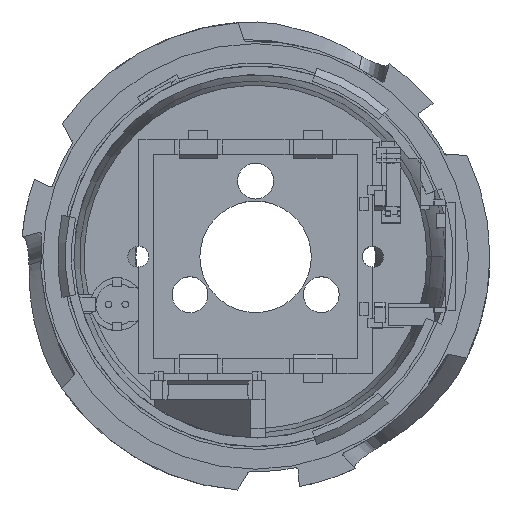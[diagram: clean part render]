
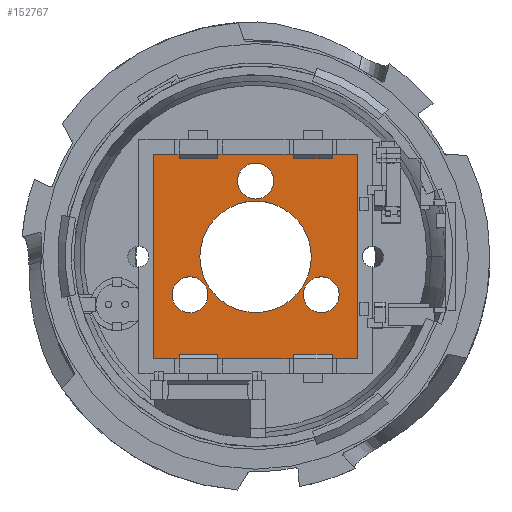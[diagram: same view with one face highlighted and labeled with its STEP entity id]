
A CAD part, top view. The second image highlights one B-rep face of the part: STEP entity #152767.
In plain terms, the highlighted planar face has unit normal (0, 0, 1).
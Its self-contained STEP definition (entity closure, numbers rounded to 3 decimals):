
#149959 = VERTEX_POINT('',#149960);
#149960 = CARTESIAN_POINT('',(21.4,-21.4,45.946));
#149966 = EDGE_CURVE('',#149959,#149967,#149969,.T.);
#149967 = VERTEX_POINT('',#149968);
#149968 = CARTESIAN_POINT('',(-21.4,-21.4,45.946));
#149969 = LINE('',#149970,#149971);
#149970 = CARTESIAN_POINT('',(0.,-21.4,45.946));
#149971 = VECTOR('',#149972,1.);
#149972 = DIRECTION('',(-1.,0.,0.));
#150015 = EDGE_CURVE('',#150016,#149967,#150018,.T.);
#150016 = VERTEX_POINT('',#150017);
#150017 = CARTESIAN_POINT('',(-21.4,21.4,45.946));
#150018 = LINE('',#150019,#150020);
#150019 = CARTESIAN_POINT('',(-21.4,0.,45.946));
#150020 = VECTOR('',#150021,1.);
#150021 = DIRECTION('',(0.,-1.,0.));
#150039 = EDGE_CURVE('',#150040,#150016,#150042,.T.);
#150040 = VERTEX_POINT('',#150041);
#150041 = CARTESIAN_POINT('',(21.4,21.4,45.946));
#150042 = LINE('',#150043,#150044);
#150043 = CARTESIAN_POINT('',(0.,21.4,45.946));
#150044 = VECTOR('',#150045,1.);
#150045 = DIRECTION('',(-1.,0.,0.));
#150943 = EDGE_CURVE('',#150040,#149959,#150944,.T.);
#150944 = LINE('',#150945,#150946);
#150945 = CARTESIAN_POINT('',(21.4,0.,45.946));
#150946 = VECTOR('',#150947,1.);
#150947 = DIRECTION('',(0.,-1.,0.));
#151747 = EDGE_CURVE('',#151748,#151748,#151750,.T.);
#151748 = VERTEX_POINT('',#151749);
#151749 = CARTESIAN_POINT('',(-9.971,-7.924,45.946));
#151750 = CIRCLE('',#151751,3.754);
#151751 = AXIS2_PLACEMENT_3D('',#151752,#151753,#151754);
#151752 = CARTESIAN_POINT('',(-13.725,-7.924,45.946));
#151753 = DIRECTION('',(0.,0.,1.));
#151754 = DIRECTION('',(1.,0.,-0.));
#151771 = EDGE_CURVE('',#151772,#151772,#151774,.T.);
#151772 = VERTEX_POINT('',#151773);
#151773 = CARTESIAN_POINT('',(17.479,-7.924,45.946));
#151774 = CIRCLE('',#151775,3.754);
#151775 = AXIS2_PLACEMENT_3D('',#151776,#151777,#151778);
#151776 = CARTESIAN_POINT('',(13.725,-7.924,45.946));
#151777 = DIRECTION('',(0.,0.,1.));
#151778 = DIRECTION('',(1.,0.,-0.));
#151795 = EDGE_CURVE('',#151796,#151796,#151798,.T.);
#151796 = VERTEX_POINT('',#151797);
#151797 = CARTESIAN_POINT('',(11.65,0.,45.946));
#151798 = CIRCLE('',#151799,11.65);
#151799 = AXIS2_PLACEMENT_3D('',#151800,#151801,#151802);
#151800 = CARTESIAN_POINT('',(0.,0.,45.946));
#151801 = DIRECTION('',(0.,0.,1.));
#151802 = DIRECTION('',(1.,0.,-0.));
#151819 = EDGE_CURVE('',#151820,#151820,#151822,.T.);
#151820 = VERTEX_POINT('',#151821);
#151821 = CARTESIAN_POINT('',(3.754,15.848,45.946));
#151822 = CIRCLE('',#151823,3.754);
#151823 = AXIS2_PLACEMENT_3D('',#151824,#151825,#151826);
#151824 = CARTESIAN_POINT('',(0.,15.848,45.946));
#151825 = DIRECTION('',(0.,0.,1.));
#151826 = DIRECTION('',(1.,0.,-0.));
#152767 = ADVANCED_FACE('',(#152768,#152771,#152774,#152777,#152780),
  #152786,.T.);
#152768 = FACE_BOUND('',#152769,.T.);
#152769 = EDGE_LOOP('',(#152770));
#152770 = ORIENTED_EDGE('',*,*,#151771,.F.);
#152771 = FACE_BOUND('',#152772,.T.);
#152772 = EDGE_LOOP('',(#152773));
#152773 = ORIENTED_EDGE('',*,*,#151747,.F.);
#152774 = FACE_BOUND('',#152775,.T.);
#152775 = EDGE_LOOP('',(#152776));
#152776 = ORIENTED_EDGE('',*,*,#151819,.F.);
#152777 = FACE_BOUND('',#152778,.T.);
#152778 = EDGE_LOOP('',(#152779));
#152779 = ORIENTED_EDGE('',*,*,#151795,.F.);
#152780 = FACE_BOUND('',#152781,.T.);
#152781 = EDGE_LOOP('',(#152782,#152783,#152784,#152785));
#152782 = ORIENTED_EDGE('',*,*,#150039,.T.);
#152783 = ORIENTED_EDGE('',*,*,#150015,.T.);
#152784 = ORIENTED_EDGE('',*,*,#149966,.F.);
#152785 = ORIENTED_EDGE('',*,*,#150943,.F.);
#152786 = PLANE('',#152787);
#152787 = AXIS2_PLACEMENT_3D('',#152788,#152789,#152790);
#152788 = CARTESIAN_POINT('',(0.,0.,45.946));
#152789 = DIRECTION('',(0.,0.,1.));
#152790 = DIRECTION('',(1.,0.,-0.));
